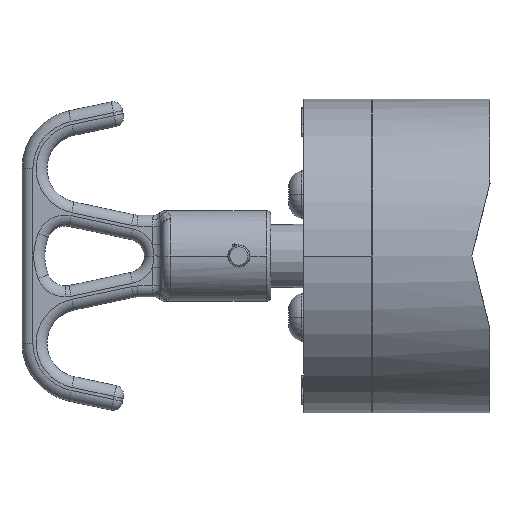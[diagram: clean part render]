
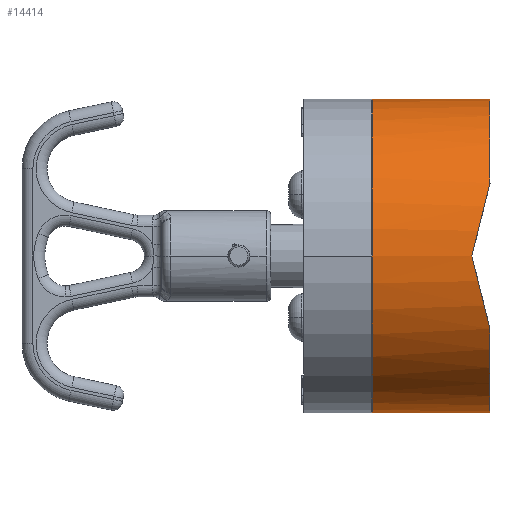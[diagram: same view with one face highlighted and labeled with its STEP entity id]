
A CAD part, left-side view. The second image highlights one B-rep face of the part: STEP entity #14414.
In plain terms, the highlighted cylindrical face has radius 34.5 mm (diameter 69 mm), a partial arc.
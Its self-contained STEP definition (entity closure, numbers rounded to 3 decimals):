
#165 = CARTESIAN_POINT ( 'NONE',  ( -35.916, -16.408, 21.23 ) ) ;
#169 = CARTESIAN_POINT ( 'NONE',  ( -39.873, -12.408, 5.187 ) ) ;
#1643 = FACE_OUTER_BOUND ( 'NONE', #23909, .T. ) ;
#1644 = CARTESIAN_POINT ( 'NONE',  ( -5.373, 9.492, 39.687 ) ) ;
#1646 = CARTESIAN_POINT ( 'NONE',  ( -5.373, 9.492, -29.313 ) ) ;
#1648 = CARTESIAN_POINT ( 'NONE',  ( -5.373, -16.408, 39.687 ) ) ;
#1653 = CARTESIAN_POINT ( 'NONE',  ( -5.373, -16.408, -29.313 ) ) ;
#1662 = CYLINDRICAL_SURFACE ( 'NONE', #32905, 34.5 ) ;
#5374 = CARTESIAN_POINT ( 'NONE',  ( -5.373, -16.408, 5.187 ) ) ;
#5377 = DIRECTION ( 'NONE',  ( 0., 1., 0. ) ) ;
#5379 = DIRECTION ( 'NONE',  ( 0., 0., 1. ) ) ;
#5483 = CARTESIAN_POINT ( 'NONE',  ( -5.373, 9.492, 5.187 ) ) ;
#5503 = DIRECTION ( 'NONE',  ( 0., -1., 0. ) ) ;
#5505 = DIRECTION ( 'NONE',  ( 0., 0., 1. ) ) ;
#5508 = CARTESIAN_POINT ( 'NONE',  ( -39.873, -12.408, 5.187 ) ) ;
#5516 = CARTESIAN_POINT ( 'NONE',  ( -39.873, -13.808, 10.804 ) ) ;
#5518 = CARTESIAN_POINT ( 'NONE',  ( -38.528, -15.168, 16.257 ) ) ;
#5520 = CARTESIAN_POINT ( 'NONE',  ( -35.916, -16.408, 21.23 ) ) ;
#5530 = CARTESIAN_POINT ( 'NONE',  ( -35.916, -16.408, -10.856 ) ) ;
#5538 = CARTESIAN_POINT ( 'NONE',  ( -5.373, -16.408, 5.187 ) ) ;
#5540 = CARTESIAN_POINT ( 'NONE',  ( -38.528, -15.168, -5.883 ) ) ;
#5542 = CARTESIAN_POINT ( 'NONE',  ( -39.873, -13.808, -0.43 ) ) ;
#5544 = CARTESIAN_POINT ( 'NONE',  ( -39.873, -12.408, 5.187 ) ) ;
#5552 = DIRECTION ( 'NONE',  ( 0., 1., 0. ) ) ;
#5554 = DIRECTION ( 'NONE',  ( 0., 0., 1. ) ) ;
#5564 = CARTESIAN_POINT ( 'NONE',  ( -5.373, 9.592, -29.313 ) ) ;
#5566 = DIRECTION ( 'NONE',  ( 0., -1., 0. ) ) ;
#5586 = CARTESIAN_POINT ( 'NONE',  ( -5.373, 9.592, 39.687 ) ) ;
#5588 = DIRECTION ( 'NONE',  ( 0., -1., 0. ) ) ;
#6733 = EDGE_CURVE ( 'NONE', #32514, #31250, #17853, .T. ) ;
#6746 = EDGE_CURVE ( 'NONE', #32509, #32510, #17865, .T. ) ;
#6748 = EDGE_CURVE ( 'NONE', #22308, #22322, #12061, .T. ) ;
#6751 = EDGE_CURVE ( 'NONE', #31250, #22308, #12062, .T. ) ;
#6752 = EDGE_CURVE ( 'NONE', #22322, #32511, #17872, .T. ) ;
#6754 = EDGE_CURVE ( 'NONE', #32510, #32514, #17866, .T. ) ;
#6757 = EDGE_CURVE ( 'NONE', #32509, #32511, #17873, .T. ) ;
#11036 = DIRECTION ( 'NONE',  ( 0., 0., -1. ) ) ;
#11038 = DIRECTION ( 'NONE',  ( 0., -1., 0. ) ) ;
#11039 = CARTESIAN_POINT ( 'NONE',  ( -5.373, 9.592, 5.187 ) ) ;
#12061 =( BOUNDED_CURVE ( )  B_SPLINE_CURVE ( 3, ( #5508, #5516, #5518, #5520 ),
 .UNSPECIFIED., .F., .F. ) 
 B_SPLINE_CURVE_WITH_KNOTS ( ( 4, 4 ),
 ( 4.712, 5.196 ),
 .UNSPECIFIED. ) 
 CURVE ( )  GEOMETRIC_REPRESENTATION_ITEM ( )  RATIONAL_B_SPLINE_CURVE ( ( 1., 0.981, 0.981, 1. ) ) 
 REPRESENTATION_ITEM ( '' )  );
#12062 =( BOUNDED_CURVE ( )  B_SPLINE_CURVE ( 3, ( #5530, #5540, #5542, #5544 ),
 .UNSPECIFIED., .F., .F. ) 
 B_SPLINE_CURVE_WITH_KNOTS ( ( 4, 4 ),
 ( 1.087, 1.571 ),
 .UNSPECIFIED. ) 
 CURVE ( )  GEOMETRIC_REPRESENTATION_ITEM ( )  RATIONAL_B_SPLINE_CURVE ( ( 1., 0.981, 0.981, 1. ) ) 
 REPRESENTATION_ITEM ( '' )  );
#14414 = ADVANCED_FACE ( 'NONE', ( #1643 ), #1662, .T. ) ;
#17853 = CIRCLE ( 'NONE', #22912, 34.5 ) ;
#17865 = CIRCLE ( 'NONE', #22929, 34.5 ) ;
#17866 = LINE ( 'NONE', #5564, #17871 ) ;
#17871 = VECTOR ( 'NONE', #5566, 1000. ) ;
#17872 = CIRCLE ( 'NONE', #22935, 34.5 ) ;
#17873 = LINE ( 'NONE', #5586, #17875 ) ;
#17875 = VECTOR ( 'NONE', #5588, 1000. ) ;
#20809 = CARTESIAN_POINT ( 'NONE',  ( -35.916, -16.408, -10.856 ) ) ;
#22308 = VERTEX_POINT ( 'NONE', #169 ) ;
#22322 = VERTEX_POINT ( 'NONE', #165 ) ;
#22912 = AXIS2_PLACEMENT_3D ( 'NONE', #5374, #5377, #5379 ) ;
#22929 = AXIS2_PLACEMENT_3D ( 'NONE', #5483, #5503, #5505 ) ;
#22935 = AXIS2_PLACEMENT_3D ( 'NONE', #5538, #5552, #5554 ) ;
#23909 = EDGE_LOOP ( 'NONE', ( #32657, #32656, #32655, #32654, #32653, #32652, #32651 ) ) ;
#31250 = VERTEX_POINT ( 'NONE', #20809 ) ;
#32509 = VERTEX_POINT ( 'NONE', #1644 ) ;
#32510 = VERTEX_POINT ( 'NONE', #1646 ) ;
#32511 = VERTEX_POINT ( 'NONE', #1648 ) ;
#32514 = VERTEX_POINT ( 'NONE', #1653 ) ;
#32651 = ORIENTED_EDGE ( 'NONE', *, *, #6752, .T. ) ;
#32652 = ORIENTED_EDGE ( 'NONE', *, *, #6748, .T. ) ;
#32653 = ORIENTED_EDGE ( 'NONE', *, *, #6751, .T. ) ;
#32654 = ORIENTED_EDGE ( 'NONE', *, *, #6733, .T. ) ;
#32655 = ORIENTED_EDGE ( 'NONE', *, *, #6754, .T. ) ;
#32656 = ORIENTED_EDGE ( 'NONE', *, *, #6746, .T. ) ;
#32657 = ORIENTED_EDGE ( 'NONE', *, *, #6757, .F. ) ;
#32905 = AXIS2_PLACEMENT_3D ( 'NONE', #11039, #11038, #11036 ) ;
